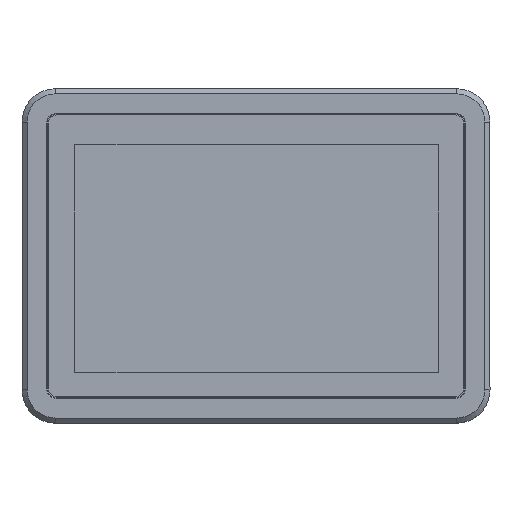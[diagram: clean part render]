
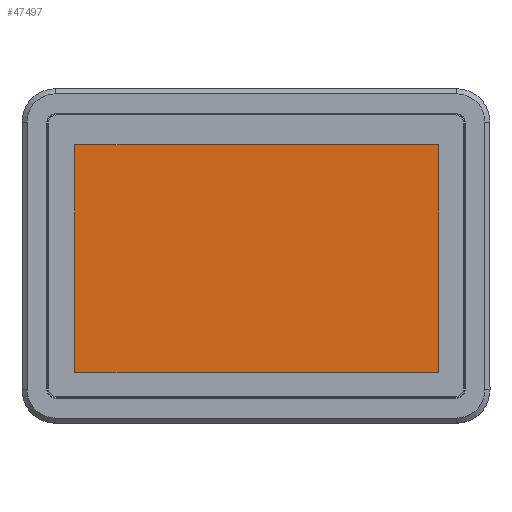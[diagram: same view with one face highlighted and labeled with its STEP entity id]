
A CAD part, top view. The second image highlights one B-rep face of the part: STEP entity #47497.
In plain terms, the highlighted planar face has unit normal (0, 0, 1).
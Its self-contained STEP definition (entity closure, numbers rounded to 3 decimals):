
#1894=PLANE('',#51310);
#4409=FACE_OUTER_BOUND('',#7124,.T.);
#7124=EDGE_LOOP('',(#40361,#40362,#40363,#40364));
#13388=LINE('',#90735,#17677);
#13389=LINE('',#90737,#17678);
#13390=LINE('',#90739,#17679);
#13391=LINE('',#90740,#17680);
#17677=VECTOR('',#62133,1000.);
#17678=VECTOR('',#62134,1000.);
#17679=VECTOR('',#62135,1000.);
#17680=VECTOR('',#62136,1000.);
#21961=VERTEX_POINT('',#90733);
#21962=VERTEX_POINT('',#90734);
#21963=VERTEX_POINT('',#90736);
#21964=VERTEX_POINT('',#90738);
#28203=EDGE_CURVE('',#21961,#21962,#13388,.T.);
#28204=EDGE_CURVE('',#21962,#21963,#13389,.T.);
#28205=EDGE_CURVE('',#21963,#21964,#13390,.T.);
#28206=EDGE_CURVE('',#21964,#21961,#13391,.T.);
#40361=ORIENTED_EDGE('',*,*,#28203,.T.);
#40362=ORIENTED_EDGE('',*,*,#28204,.T.);
#40363=ORIENTED_EDGE('',*,*,#28205,.T.);
#40364=ORIENTED_EDGE('',*,*,#28206,.T.);
#47497=ADVANCED_FACE('',(#4409),#1894,.F.);
#51310=AXIS2_PLACEMENT_3D('',#90732,#62131,#62132);
#62131=DIRECTION('center_axis',(0.,0.,
-1.));
#62132=DIRECTION('ref_axis',(1.,0.,0.));
#62133=DIRECTION('',(0.,1.,0.));
#62134=DIRECTION('',(-1.,0.,0.));
#62135=DIRECTION('',(0.,-1.,0.));
#62136=DIRECTION('',(1.,0.,0.));
#90732=CARTESIAN_POINT('Origin',(124.38,84.365,14.9));
#90733=CARTESIAN_POINT('',(109.35,-69.865,14.9));
#90734=CARTESIAN_POINT('',(109.35,66.535,14.9));
#90735=CARTESIAN_POINT('',(109.35,66.535,14.9));
#90736=CARTESIAN_POINT('',(-108.35,66.535,14.9));
#90737=CARTESIAN_POINT('',(-108.35,66.535,14.9));
#90738=CARTESIAN_POINT('',(-108.35,-69.865,14.9));
#90739=CARTESIAN_POINT('',(-108.35,-69.865,14.9));
#90740=CARTESIAN_POINT('',(109.35,-69.865,14.9));
